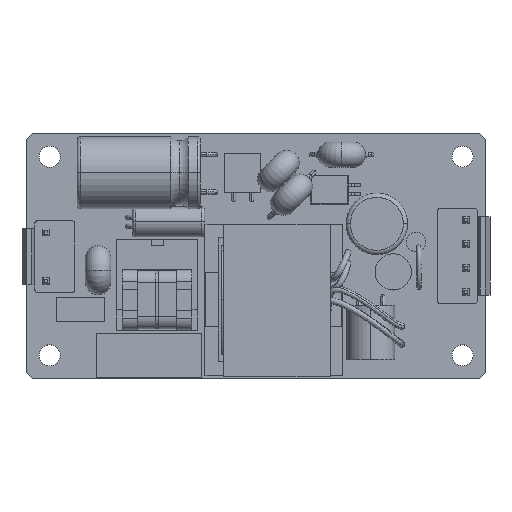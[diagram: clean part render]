
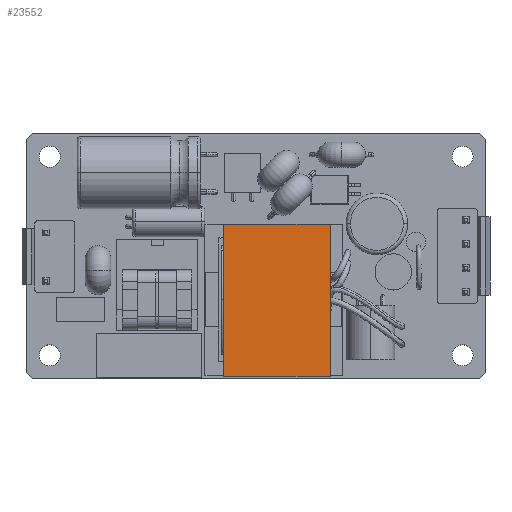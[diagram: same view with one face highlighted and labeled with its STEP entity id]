
A CAD part, top view. The second image highlights one B-rep face of the part: STEP entity #23552.
In plain terms, the highlighted planar face has unit normal (0, 0, 1).
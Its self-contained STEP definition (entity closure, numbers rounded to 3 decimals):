
#253 = DIRECTION ( 'NONE',  ( 0., -1., 0. ) ) ;
#421 = VERTEX_POINT ( 'NONE', #20388 ) ;
#735 = CARTESIAN_POINT ( 'NONE',  ( 75.644, 86.568, 16.7 ) ) ;
#1954 = FACE_OUTER_BOUND ( 'NONE', #4896, .T. ) ;
#2077 = EDGE_CURVE ( 'NONE', #25919, #6823, #14352, .T. ) ;
#3066 = ORIENTED_EDGE ( 'NONE', *, *, #10516, .T. ) ;
#4203 = DIRECTION ( 'NONE',  ( 1., 0., 0. ) ) ;
#4896 = EDGE_LOOP ( 'NONE', ( #15320, #3066, #27808, #12679 ) ) ;
#5140 = EDGE_CURVE ( 'NONE', #26274, #25919, #28370, .T. ) ;
#5295 = DIRECTION ( 'NONE',  ( 1., 0., 0. ) ) ;
#6002 = CARTESIAN_POINT ( 'NONE',  ( 0., 0., 16.7 ) ) ;
#6823 = VERTEX_POINT ( 'NONE', #22427 ) ;
#8036 = CARTESIAN_POINT ( 'NONE',  ( 93.35, 86.568, 16.7 ) ) ;
#8293 = DIRECTION ( 'NONE',  ( -1., 0., 0. ) ) ;
#9306 = VECTOR ( 'NONE', #4203, 1000. ) ;
#9873 = DIRECTION ( 'NONE',  ( 0., -1., 0. ) ) ;
#10516 = EDGE_CURVE ( 'NONE', #26274, #421, #15180, .T. ) ;
#12679 = ORIENTED_EDGE ( 'NONE', *, *, #2077, .F. ) ;
#13246 = CARTESIAN_POINT ( 'NONE',  ( 75.644, 61.314, 16.7 ) ) ;
#13473 = EDGE_CURVE ( 'NONE', #421, #6823, #27391, .T. ) ;
#14352 = LINE ( 'NONE', #23439, #21764 ) ;
#15180 = LINE ( 'NONE', #18318, #27913 ) ;
#15320 = ORIENTED_EDGE ( 'NONE', *, *, #5140, .F. ) ;
#15664 = VECTOR ( 'NONE', #5295, 1000. ) ;
#16579 = CARTESIAN_POINT ( 'NONE',  ( 75.644, 86.568, 16.7 ) ) ;
#18318 = CARTESIAN_POINT ( 'NONE',  ( 75.644, 86.568, 16.7 ) ) ;
#19619 = PLANE ( 'NONE',  #24803 ) ;
#20388 = CARTESIAN_POINT ( 'NONE',  ( 75.644, 61.314, 16.7 ) ) ;
#21764 = VECTOR ( 'NONE', #9873, 1000. ) ;
#21885 = DIRECTION ( 'NONE',  ( 0., 0., -1. ) ) ;
#22427 = CARTESIAN_POINT ( 'NONE',  ( 93.35, 61.314, 16.7 ) ) ;
#23439 = CARTESIAN_POINT ( 'NONE',  ( 93.35, 86.568, 16.7 ) ) ;
#23552 = ADVANCED_FACE ( 'NONE', ( #1954 ), #19619, .F. ) ;
#24803 = AXIS2_PLACEMENT_3D ( 'NONE', #6002, #21885, #8293 ) ;
#25919 = VERTEX_POINT ( 'NONE', #8036 ) ;
#26274 = VERTEX_POINT ( 'NONE', #16579 ) ;
#27391 = LINE ( 'NONE', #13246, #9306 ) ;
#27808 = ORIENTED_EDGE ( 'NONE', *, *, #13473, .T. ) ;
#27913 = VECTOR ( 'NONE', #253, 1000. ) ;
#28370 = LINE ( 'NONE', #735, #15664 ) ;
